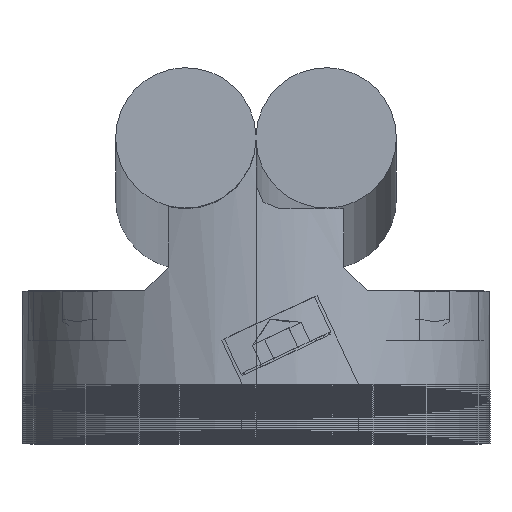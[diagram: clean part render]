
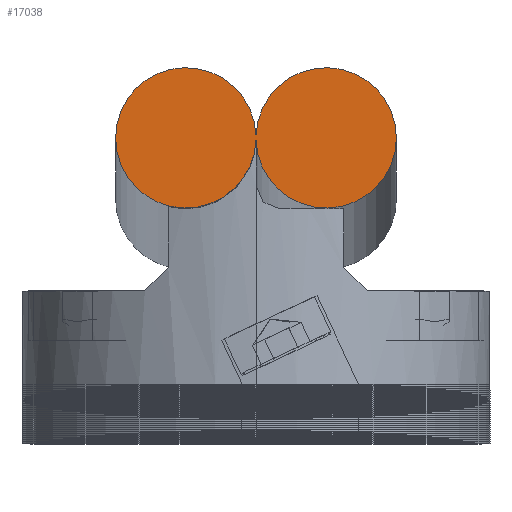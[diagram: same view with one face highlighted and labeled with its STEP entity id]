
A CAD part, top view. The second image highlights one B-rep face of the part: STEP entity #17038.
In plain terms, the highlighted planar face has unit normal (0, 0, 1).
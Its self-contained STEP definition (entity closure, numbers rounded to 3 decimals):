
#1880 = VERTEX_POINT ( 'NONE', #25739 ) ;
#1882 = EDGE_CURVE ( 'NONE', #1883, #1880, #25737, .T. ) ;
#1883 = VERTEX_POINT ( 'NONE', #25728 ) ;
#14871 = VERTEX_POINT ( 'NONE', #46997 ) ;
#15054 = EDGE_CURVE ( 'NONE', #14871, #51787, #47253, .T. ) ;
#15155 = EDGE_CURVE ( 'NONE', #1880, #14871, #47352, .T. ) ;
#16770 = ORIENTED_EDGE ( 'NONE', *, *, #15155, .T. ) ;
#16808 = ORIENTED_EDGE ( 'NONE', *, *, #15054, .T. ) ;
#16810 = ORIENTED_EDGE ( 'NONE', *, *, #51975, .T. ) ;
#16956 = ORIENTED_EDGE ( 'NONE', *, *, #1882, .T. ) ;
#17038 = ADVANCED_FACE ( 'NONE', ( #49585 ), #49633, .T. ) ;
#17085 = EDGE_LOOP ( 'NONE', ( #16956, #16770, #16808, #16810, #44549 ) ) ;
#25728 = CARTESIAN_POINT ( 'NONE',  ( 0.005, 20.75, 0. ) ) ;
#25730 = DIRECTION ( 'NONE',  ( 1., 0., 0. ) ) ;
#25732 = DIRECTION ( 'NONE',  ( 0., 0., 1. ) ) ;
#25734 = CARTESIAN_POINT ( 'NONE',  ( 6., 21., 0. ) ) ;
#25735 = AXIS2_PLACEMENT_3D ( 'NONE', #25734, #25732, #25730 ) ;
#25737 = CIRCLE ( 'NONE', #25735, 6. ) ;
#25739 = CARTESIAN_POINT ( 'NONE',  ( 12., 21., 0. ) ) ;
#44549 = ORIENTED_EDGE ( 'NONE', *, *, #55354, .T. ) ;
#46997 = CARTESIAN_POINT ( 'NONE',  ( 0.005, 21.25, 0. ) ) ;
#47250 = DIRECTION ( 'NONE',  ( -1., 0., 0. ) ) ;
#47251 = VECTOR ( 'NONE', #47250, 1000. ) ;
#47252 = CARTESIAN_POINT ( 'NONE',  ( -0.005, 21.25, 0. ) ) ;
#47253 = LINE ( 'NONE', #47252, #47251 ) ;
#47348 = DIRECTION ( 'NONE',  ( 1., 0., 0. ) ) ;
#47349 = DIRECTION ( 'NONE',  ( 0., 0., 1. ) ) ;
#47350 = CARTESIAN_POINT ( 'NONE',  ( 6., 21., 0. ) ) ;
#47351 = AXIS2_PLACEMENT_3D ( 'NONE', #47350, #47349, #47348 ) ;
#47352 = CIRCLE ( 'NONE', #47351, 6. ) ;
#49585 = FACE_OUTER_BOUND ( 'NONE', #17085, .T. ) ;
#49629 = DIRECTION ( 'NONE',  ( 1., 0., 0. ) ) ;
#49630 = DIRECTION ( 'NONE',  ( 0., 0., 1. ) ) ;
#49631 = CARTESIAN_POINT ( 'NONE',  ( 6., 21., 0. ) ) ;
#49632 = AXIS2_PLACEMENT_3D ( 'NONE', #49631, #49630, #49629 ) ;
#49633 = PLANE ( 'NONE',  #49632 ) ;
#51787 = VERTEX_POINT ( 'NONE', #58578 ) ;
#51954 = VERTEX_POINT ( 'NONE', #58634 ) ;
#51975 = EDGE_CURVE ( 'NONE', #51787, #51954, #58632, .T. ) ;
#55354 = EDGE_CURVE ( 'NONE', #51954, #1883, #58784, .T. ) ;
#58578 = CARTESIAN_POINT ( 'NONE',  ( -0.005, 21.25, 0. ) ) ;
#58628 = DIRECTION ( 'NONE',  ( -1., 0., 0. ) ) ;
#58629 = DIRECTION ( 'NONE',  ( 0., 0., 1. ) ) ;
#58630 = CARTESIAN_POINT ( 'NONE',  ( -6., 21., 0. ) ) ;
#58631 = AXIS2_PLACEMENT_3D ( 'NONE', #58630, #58629, #58628 ) ;
#58632 = CIRCLE ( 'NONE', #58631, 6. ) ;
#58634 = CARTESIAN_POINT ( 'NONE',  ( -0.005, 20.75, 0. ) ) ;
#58781 = DIRECTION ( 'NONE',  ( 1., 0., 0. ) ) ;
#58782 = VECTOR ( 'NONE', #58781, 1000. ) ;
#58783 = CARTESIAN_POINT ( 'NONE',  ( -0.005, 20.75, 0. ) ) ;
#58784 = LINE ( 'NONE', #58783, #58782 ) ;
